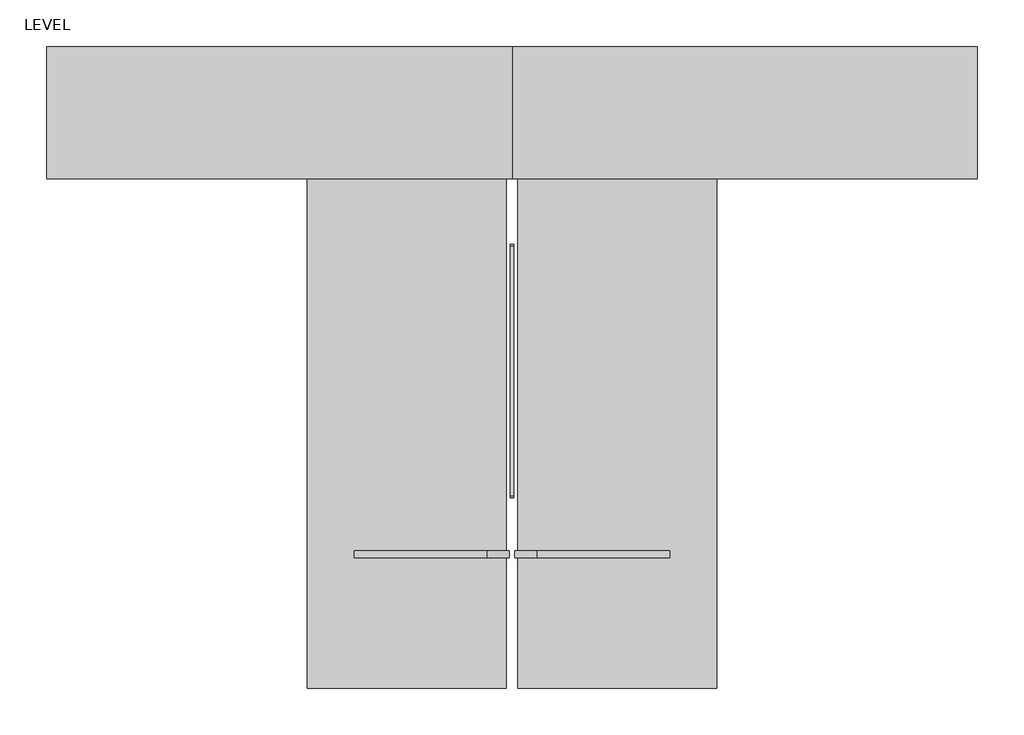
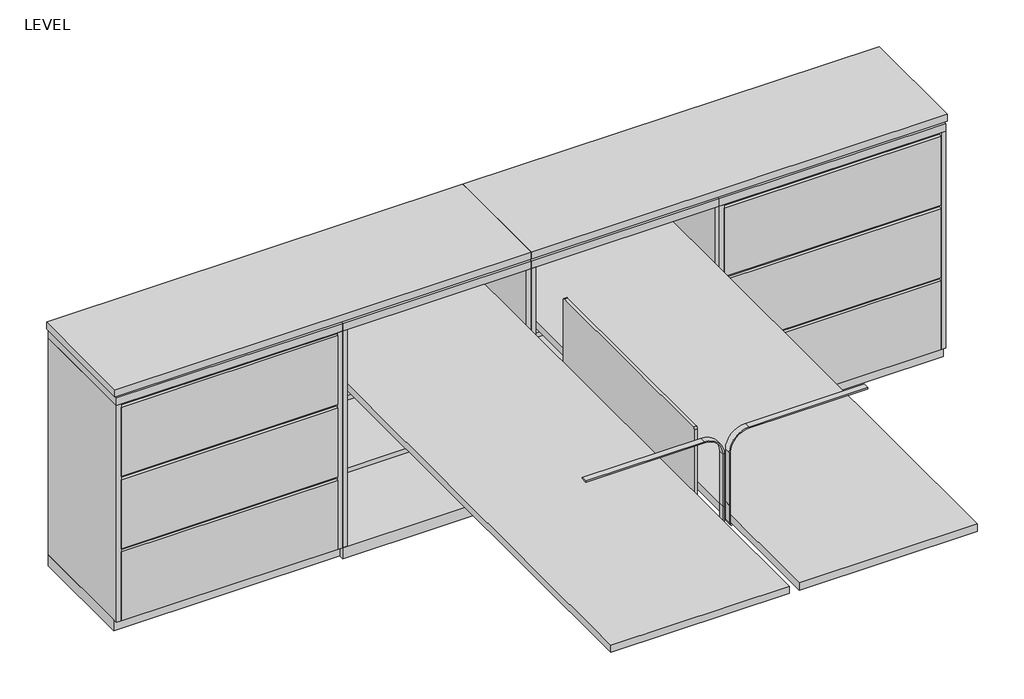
# One storey, incomplete: 9 furniture elements, 2 light fixtures.
"""IFC4 building model written with IfcOpenShell, lengths in millimetres."""

import ifcopenshell
import ifcopenshell.guid

model = None  # the IFC model being written
_history = None  # IfcOwnerHistory: only IFC2X3 demands one
_inside = {}  # id of a spatial element -> (the spatial element, [elements in it])
_under = {}  # id of a project, library or spatial element -> (it, [spatial elements below it])
_declared = {}  # id of a project -> (the project, [libraries it declares])
_typed = {}  # id of a type object -> (the type object, [elements of that type])
_made_of = {}  # id of a material, layer set ... -> (it, [elements and type objects made of it])


def new_model(schema):
    """Start an empty IFC model of exactly this schema.

    Asked for "IFC4X3", IfcOpenShell would pick the latest addendum, in which some entities
    have other attributes; the version numbers below select the first issue.
    IFC2X3 requires an IfcOwnerHistory on every rooted entity: one is made here for all.
    """
    global model, _history
    if schema == "IFC4X3":
        model = ifcopenshell.file(schema_version=(4, 3, 0, 0))
    else:
        model = ifcopenshell.file(schema=schema)
    _inside.clear()
    _under.clear()
    _declared.clear()
    _typed.clear()
    _made_of.clear()
    _history = None
    if model.schema == "IFC2X3":
        org = make("IfcOrganization", Name="unknown")
        user = make(
            "IfcPersonAndOrganization",
            ThePerson=make("IfcPerson", FamilyName="unknown"),
            TheOrganization=org,
        )
        app = make(
            "IfcApplication",
            ApplicationDeveloper=org,
            Version="unknown",
            ApplicationFullName="unknown",
            ApplicationIdentifier="unknown",
        )
        _history = make(
            "IfcOwnerHistory",
            OwningUser=user,
            OwningApplication=app,
            ChangeAction="ADDED",
            CreationDate=0,
        )
    return model


def make(cls, **values):
    """One entity of the class cls with the attributes given. An attribute that is None is left unset."""
    return model.create_entity(
        cls, **{name: value for name, value in values.items() if value is not None}
    )


def rooted(cls, **values):
    """An entity with a GlobalId (a new one), such as an element, a storey or a relation."""
    return make(cls, GlobalId=ifcopenshell.guid.new(), OwnerHistory=_history, **values)


def si_unit(unit_type, name, prefix=None):
    """IfcSIUnit, for example si_unit("LENGTHUNIT", "METRE", prefix="MILLI")."""
    return make("IfcSIUnit", UnitType=unit_type, Prefix=prefix, Name=name)


def assignment(units):
    """IfcUnitAssignment: the units of a project."""
    return None if units is None else make("IfcUnitAssignment", Units=units)


def point(xyz):
    """IfcCartesianPoint."""
    return None if xyz is None else make("IfcCartesianPoint", Coordinates=xyz)


def direction(xyz):
    """IfcDirection."""
    return None if xyz is None else make("IfcDirection", DirectionRatios=xyz)


def frame(location, z_axis=None, x_axis=None):
    """IfcAxis2Placement3D, a coordinate frame: its origin and axes. An axis left out is left unset."""
    return make(
        "IfcAxis2Placement3D",
        Location=point(location),
        Axis=direction(z_axis),
        RefDirection=direction(x_axis),
    )


def frame_2d(location, x_axis=None):
    """IfcAxis2Placement2D, a coordinate frame in the plane: its origin and x axis."""
    return make(
        "IfcAxis2Placement2D", Location=point(location), RefDirection=direction(x_axis)
    )


def origin():
    """The frame at (0, 0, 0) with its axes left unset."""
    return frame((0.0, 0.0, 0.0))


def origin_with_axes():
    """The frame at (0, 0, 0) with the z axis (0, 0, 1) and the x axis (1, 0, 0) written out."""
    return frame((0.0, 0.0, 0.0), z_axis=(0.0, 0.0, 1.0), x_axis=(1.0, 0.0, 0.0))


def place(relative_to, where):
    """IfcLocalPlacement: puts the frame where relative to a parent placement (None: the world)."""
    return make(
        "IfcLocalPlacement", PlacementRelTo=relative_to, RelativePlacement=where
    )


def context(
    kind, dimensions, precision=None, world=None, true_north=None, identifier=None
):
    """IfcGeometricRepresentationContext, for example the 3D "Model" context."""
    return make(
        "IfcGeometricRepresentationContext",
        ContextIdentifier=identifier,
        ContextType=kind,
        CoordinateSpaceDimension=dimensions,
        Precision=precision,
        WorldCoordinateSystem=world,
        TrueNorth=true_north,
    )


def project(units=None, contexts=None):
    """IfcProject with its units and contexts."""
    return rooted(
        "IfcProject",
        Name="project",
        RepresentationContexts=contexts,
        UnitsInContext=assignment(units),
    )


def spatial(cls, under=None, at=None, **own):
    """A site, building, storey or space (cls), placed at a placement, below another one or the project."""
    s = rooted(cls, ObjectPlacement=at, **own)
    if under is not None:
        _under.setdefault(under.id(), (under, []))[1].append(s)
    return s


def polyline(points):
    """IfcPolyline through the points."""
    return make("IfcPolyline", Points=[point(p) for p in points])


def circle_curve(where, radius):
    """IfcCircle in the frame where."""
    return make("IfcCircle", Position=where, Radius=radius)


def trimmed(basis, trim1, trim2, sense, master):
    """IfcTrimmedCurve: the piece of a basis curve between two trims."""
    return make(
        "IfcTrimmedCurve",
        BasisCurve=basis,
        Trim1=trim1,
        Trim2=trim2,
        SenseAgreement=sense,
        MasterRepresentation=master,
    )


def segment(curve, same_sense, transition):
    """IfcCompositeCurveSegment."""
    return make(
        "IfcCompositeCurveSegment",
        Transition=transition,
        SameSense=same_sense,
        ParentCurve=curve,
    )


def composite_curve(segments, self_intersect=None):
    """IfcCompositeCurve: segments joined end to end."""
    return make("IfcCompositeCurve", Segments=segments, SelfIntersect=self_intersect)


def outline(outer, holes=None, kind="AREA"):
    """IfcArbitraryClosedProfileDef: a profile drawn as a closed curve; with holes, ...WithVoids."""
    if holes is None:
        return make("IfcArbitraryClosedProfileDef", ProfileType=kind, OuterCurve=outer)
    return make(
        "IfcArbitraryProfileDefWithVoids",
        ProfileType=kind,
        OuterCurve=outer,
        InnerCurves=holes,
    )


def extrude(swept, where, along, depth):
    """IfcExtrudedAreaSolid: the profile swept, set in the frame where, extruded along a direction by depth."""
    return make(
        "IfcExtrudedAreaSolid",
        SweptArea=swept,
        Position=where,
        ExtrudedDirection=direction(along),
        Depth=depth,
    )


def shape(context_of_items, identifier, shape_type, items):
    """IfcShapeRepresentation: the items that make up one representation, for example the "Body"."""
    return make(
        "IfcShapeRepresentation",
        ContextOfItems=context_of_items,
        RepresentationIdentifier=identifier,
        RepresentationType=shape_type,
        Items=items,
    )


def source(mapping_origin, context_of_items, identifier, shape_type, items):
    """IfcRepresentationMap: a shape defined once, which mapped items show again and again."""
    return make(
        "IfcRepresentationMap",
        MappingOrigin=mapping_origin,
        MappedRepresentation=shape(context_of_items, identifier, shape_type, items),
    )


def transform(
    local_origin,
    x_axis=None,
    y_axis=None,
    z_axis=None,
    scale=None,
    scale2=None,
    scale3=None,
    uniform=True,
):
    """IfcCartesianTransformationOperator3D, or its non-uniform kind. x_axis, y_axis, z_axis: its Axis1, 2, 3."""
    if uniform:
        return make(
            "IfcCartesianTransformationOperator3D",
            Axis1=direction(x_axis),
            Axis2=direction(y_axis),
            LocalOrigin=point(local_origin),
            Scale=scale,
            Axis3=direction(z_axis),
        )
    return make(
        "IfcCartesianTransformationOperator3DnonUniform",
        Axis1=direction(x_axis),
        Axis2=direction(y_axis),
        LocalOrigin=point(local_origin),
        Scale=scale,
        Axis3=direction(z_axis),
        Scale2=scale2,
        Scale3=scale3,
    )


def mapped(mapping_source, mapping_target):
    """IfcMappedItem: shows the shape of a source again, moved by a transform."""
    return make(
        "IfcMappedItem", MappingSource=mapping_source, MappingTarget=mapping_target
    )


def made_of(thing, what):
    """Note that an element or type object is made of a material, layer set ...; save() writes the relation."""
    if what is not None:
        _made_of.setdefault(what.id(), (what, []))[1].append(thing)
    return thing


def element(
    cls,
    number,
    at=None,
    inside=None,
    cuts=None,
    type_object=None,
    material=None,
    context=None,
    identifier="Body",
    shape_type=None,
    held_by="IfcProductDefinitionShape",
    body=None,
    shapes=None,
    **own,
):
    """One element of the class cls, such as IfcWall. Its Tag is "e" and its number.

    at: its placement. inside: the storey or other place that contains it. cuts: it is an
    opening in that element (IfcRelVoidsElement). A single representation is given by context,
    identifier, shape_type and body (its items); several are given by shapes. held_by: the class
    of the entity that holds the representations. save() writes the other relations.
    """
    e = rooted(cls, Tag="e%d" % number, ObjectPlacement=at, **own)
    if body is not None:
        shapes = [shape(context, identifier, shape_type, body)]
    if shapes is not None:
        e.Representation = make(held_by, Representations=shapes)
    if inside is not None:
        _inside.setdefault(inside.id(), (inside, []))[1].append(e)
    if cuts is not None:
        rooted(
            "IfcRelVoidsElement", RelatingBuildingElement=cuts, RelatedOpeningElement=e
        )
    if type_object is not None:
        _typed.setdefault(type_object.id(), (type_object, []))[1].append(e)
    return made_of(e, material)


def aggregate(whole, parts):
    """IfcRelAggregates: a whole, such as a stair, and the parts it consists of."""
    return rooted("IfcRelAggregates", RelatingObject=whole, RelatedObjects=parts)


def save(model, path):
    """Write the relations noted so far, then the file.

    IfcRelAggregates (storeys below a building ...), IfcRelContainedInSpatialStructure (elements
    in a storey), IfcRelDefinesByType, IfcRelAssociatesMaterial and IfcRelDeclares: one each for
    every whole, place, type object, material and project.
    """
    for whole, parts in _under.values():
        aggregate(whole, parts)
    for where, things in _inside.values():
        rooted(
            "IfcRelContainedInSpatialStructure",
            RelatedElements=things,
            RelatingStructure=where,
        )
    for kind, things in _typed.values():
        rooted("IfcRelDefinesByType", RelatedObjects=things, RelatingType=kind)
    for what, things in _made_of.values():
        rooted("IfcRelAssociatesMaterial", RelatedObjects=things, RelatingMaterial=what)
    for by, libraries in _declared.values():
        rooted("IfcRelDeclares", RelatingContext=by, RelatedDefinitions=libraries)
    model.write(path)


def furniture_9bfe657d(model_context):
    return source(origin(), model_context, "Body", "SweptSolid", [
        extrude(outline(polyline([(838.2, 238.125), (838.2, -238.125), (-838.2, -238.125), (-838.2, 238.125), (838.2, 238.125)])), frame((0.0, 0.0, 1011.2375), z_axis=(0.0, 0.0, 1.0), x_axis=(1.0, 0.0, 0.0)), (0.0, 0.0, 1.0), 30.1625),
    ])


def furniture_7700fe12(model_context):
    return source(origin(), model_context, "Body", "SweptSolid", [
        extrude(outline(polyline([(838.2, -238.125), (-838.2, -238.125), (-838.2, 238.125), (838.2, 238.125), (838.2, -238.125)])), frame((0.0, 0.0, 1011.2375), z_axis=(0.0, 0.0, 1.0), x_axis=(1.0, 0.0, 0.0)), (0.0, 0.0, 1.0), 30.1625),
    ])


def furniture_46f5773e(model_context):
    return source(origin(), model_context, "Body", "SweptSolid", [
        extrude(outline(polyline([(360.3625, -19.05), (360.3625, -457.2), (-360.3625, -457.2), (-360.3625, -19.05), (360.3625, -19.05)])), frame((0.0, 0.0, 654.05), z_axis=(0.0, 0.0, 1.0), x_axis=(1.0, 0.0, 0.0)), (0.0, 0.0, 1.0), 19.05),
        extrude(outline(polyline([(360.3625, -19.05), (360.3625, -457.2), (-360.3625, -457.2), (-360.3625, -19.05), (360.3625, -19.05)])), frame((0.0, 0.0, 346.075), z_axis=(0.0, 0.0, 1.0), x_axis=(1.0, 0.0, 0.0)), (0.0, 0.0, 1.0), 19.05),
        extrude(outline(polyline([(379.4125, 0.0), (379.4125, -476.25), (-379.4125, -476.25), (-379.4125, 0.0), (379.4125, 0.0)])), origin_with_axes(), (0.0, 0.0, 1.0), 47.625),
        extrude(outline(polyline([(379.4125, 0.0), (379.4125, -476.25), (-379.4125, -476.25), (-379.4125, 0.0), (379.4125, 0.0)])), frame((0.0, 0.0, 971.55), z_axis=(0.0, 0.0, 1.0), x_axis=(1.0, 0.0, 0.0)), (0.0, 0.0, 1.0), 31.75),
        extrude(outline(polyline([(379.4125, 0.0), (379.4125, -476.25), (360.3625, -476.25), (360.3625, -19.05), (-360.3625, -19.05), (-360.3625, -476.25), (-379.4125, -476.25), (-379.4125, 0.0), (379.4125, 0.0)])), frame((0.0, 0.0, 47.625), z_axis=(0.0, 0.0, 1.0), x_axis=(1.0, 0.0, 0.0)), (0.0, 0.0, 1.0), 923.925),
    ])


def furniture_f4e6c6b2(model_context):
    return source(origin(), model_context, "Body", "SweptSolid", [
        extrude(outline(polyline([(-457.2, 663.575), (-476.25, 663.575), (-476.25, 957.2625), (-463.55, 957.2625), (-463.55, 971.55), (-457.2, 971.55), (-457.2, 663.575)])), frame((-436.5625, 0.0, 0.0), z_axis=(1.0, 0.0, 0.0), x_axis=(0.0, 1.0, 0.0)), (0.0, 0.0, 1.0), 873.125),
        extrude(outline(polyline([(-457.2, 355.6), (-476.25, 355.6), (-476.25, 649.2875), (-463.55, 649.2875), (-463.55, 663.575), (-457.2, 663.575), (-457.2, 355.6)])), frame((-436.5625, 0.0, 0.0), z_axis=(1.0, 0.0, 0.0), x_axis=(0.0, 1.0, 0.0)), (0.0, 0.0, 1.0), 873.125),
        extrude(outline(polyline([(-457.2, 47.625), (-476.25, 47.625), (-476.25, 341.3125), (-463.55, 341.3125), (-463.55, 355.6), (-457.2, 355.6), (-457.2, 47.625)])), frame((-436.5625, 0.0, 0.0), z_axis=(1.0, 0.0, 0.0), x_axis=(0.0, 1.0, 0.0)), (0.0, 0.0, 1.0), 873.125),
        extrude(outline(polyline([(455.6125, 0.0), (455.6125, -457.2), (-455.6125, -457.2), (-455.6125, 0.0), (455.6125, 0.0)])), origin_with_axes(), (0.0, 0.0, 1.0), 47.625),
        extrude(outline(polyline([(455.6125, 0.0), (455.6125, -476.25), (-455.6125, -476.25), (-455.6125, 0.0), (455.6125, 0.0)])), frame((0.0, 0.0, 971.55), z_axis=(0.0, 0.0, 1.0), x_axis=(1.0, 0.0, 0.0)), (0.0, 0.0, 1.0), 31.75),
        extrude(outline(polyline([(455.6125, 0.0), (455.6125, -476.25), (436.5625, -476.25), (436.5625, -19.05), (-436.5625, -19.05), (-436.5625, -476.25), (-455.6125, -476.25), (-455.6125, 0.0), (455.6125, 0.0)])), frame((0.0, 0.0, 47.625), z_axis=(0.0, 0.0, 1.0), x_axis=(1.0, 0.0, 0.0)), (0.0, 0.0, 1.0), 923.925),
    ])


def furniture_59804fc4(model_context):
    return source(origin(), model_context, "Body", "SweptSolid", [
        extrude(outline(composite_curve([segment(polyline([(990.6, 449.2625), (990.6, -449.2625)]), True, "CONTINUOUS"), segment(trimmed(circle_curve(frame_2d((982.6625, -449.2625)), 7.9375), [point((990.6, -449.2625))], [point((982.6625, -457.2))], False, "CARTESIAN"), True, "CONTINUOUS"), segment(polyline([(982.6625, -457.2), (287.3375, -457.2)]), True, "CONTINUOUS"), segment(trimmed(circle_curve(frame_2d((287.3375, -449.2625)), 7.9375), [point((287.3375, -457.2))], [point((279.4, -449.2625))], False, "CARTESIAN"), True, "CONTINUOUS"), segment(polyline([(279.4, -449.2625), (279.4, 449.2625)]), True, "CONTINUOUS"), segment(trimmed(circle_curve(frame_2d((287.3375, 449.2625)), 7.9375), [point((279.4, 449.2625))], [point((287.3375, 457.2))], False, "CARTESIAN"), True, "CONTINUOUS"), segment(polyline([(287.3375, 457.2), (982.6625, 457.2)]), True, "CONTINUOUS"), segment(trimmed(circle_curve(frame_2d((982.6625, 449.2625)), 7.9375), [point((982.6625, 457.2))], [point((990.6, 449.2625))], False, "CARTESIAN"), True, "CONTINUOUS")], self_intersect=False)), frame((0.0, -6.35, 0.0), z_axis=(0.0, 1.0, 0.0), x_axis=(0.0, 0.0, 1.0)), (0.0, 0.0, 1.0), 12.7),
    ])


def furniture_ea66191a(model_context):
    return source(origin(), model_context, "Body", "SweptSolid", [
        extrude(outline(polyline([(1143.0, 358.775), (1143.0, -358.775), (-1143.0, -358.775), (-1143.0, 358.775), (1143.0, 358.775)])), frame((0.0, 0.0, 706.4375), z_axis=(0.0, 0.0, 1.0), x_axis=(1.0, 0.0, 0.0)), (0.0, 0.0, 1.0), 30.1625),
    ])


def worksurface_mount_c278ec45(model_context):
    return source(origin(), model_context, "Body", "SweptSolid", [
        extrude(outline(composite_curve([segment(polyline([(703.2625, -529.3713699), (698.5, -529.3713699), (698.5, 16.7286301)]), True, "CONTINUOUS"), segment(trimmed(circle_curve(frame_2d((711.2, 16.7286301)), 12.7), [point((698.5, 16.7286301))], [point((711.2, 29.4286301))], False, "CARTESIAN"), True, "CONTINUOUS"), segment(polyline([(711.2, 29.4286301), (787.4, 29.4286301), (787.4, 24.6661301), (711.2, 24.6661301)]), True, "CONTINUOUS"), segment(trimmed(circle_curve(frame_2d((711.2, 16.7286301)), 7.9375), [point((711.2, 24.6661301))], [point((703.2625, 16.7286301))], True, "CARTESIAN"), True, "CONTINUOUS"), segment(polyline([(703.2625, 16.7286301), (703.2625, -529.3713699)]), True, "CONTINUOUS")], self_intersect=False)), frame((0.0, 211.5532085, 0.0), z_axis=(0.0, 1.0, 0.0), x_axis=(0.0, 0.0, 1.0)), (0.0, 0.0, 1.0), 25.4),
        extrude(outline(composite_curve([segment(polyline([(1092.2, -529.3713699), (1087.4375, -529.3713699), (1087.4375, -51.5338699)]), True, "CONTINUOUS"), segment(trimmed(circle_curve(frame_2d((1011.2375, -51.5338699)), 76.2), [point((1087.4375, -51.5338699))], [point((1011.2375, 24.6661301))], True, "CARTESIAN"), True, "CONTINUOUS"), segment(polyline([(1011.2375, 24.6661301), (787.4, 24.6661301), (787.4, 29.4286301), (1011.2375, 29.4286301)]), True, "CONTINUOUS"), segment(trimmed(circle_curve(frame_2d((1011.2375, -51.5338699)), 80.9625), [point((1011.2375, 29.4286301))], [point((1092.2, -51.5338699))], False, "CARTESIAN"), True, "CONTINUOUS"), segment(polyline([(1092.2, -51.5338699), (1092.2, -529.3713699)]), True, "CONTINUOUS")], self_intersect=False)), frame((0.0, 211.5532085, 0.0), z_axis=(0.0, 1.0, 0.0), x_axis=(0.0, 0.0, 1.0)), (0.0, 0.0, 1.0), 25.4),
    ])


def worksurface_mount_81171a16(model_context):
    return source(origin(), model_context, "Body", "SweptSolid", [
        extrude(outline(composite_curve([segment(polyline([(698.5, -529.3713699), (698.5, 16.7286301)]), True, "CONTINUOUS"), segment(trimmed(circle_curve(frame_2d((711.2, 16.7286301)), 12.7), [point((698.5, 16.7286301))], [point((711.2, 29.4286301))], False, "CARTESIAN"), True, "CONTINUOUS"), segment(polyline([(711.2, 29.4286301), (787.4, 29.4286301), (787.4, 24.6661301), (711.2, 24.6661301)]), True, "CONTINUOUS"), segment(trimmed(circle_curve(frame_2d((711.2, 16.7286301)), 7.9375), [point((711.2, 24.6661301))], [point((703.2625, 16.7286301))], True, "CARTESIAN"), True, "CONTINUOUS"), segment(polyline([(703.2625, 16.7286301), (703.2625, -529.3713699), (698.5, -529.3713699)]), True, "CONTINUOUS")], self_intersect=False)), frame((0.0, -236.9532085, 0.0), z_axis=(0.0, 1.0, 0.0), x_axis=(0.0, 0.0, 1.0)), (0.0, 0.0, 1.0), 25.4),
        extrude(outline(composite_curve([segment(polyline([(1087.4375, -529.3713699), (1087.4375, -51.5338699)]), True, "CONTINUOUS"), segment(trimmed(circle_curve(frame_2d((1011.2375, -51.5338699)), 76.2), [point((1087.4375, -51.5338699))], [point((1011.2375, 24.6661301))], True, "CARTESIAN"), True, "CONTINUOUS"), segment(polyline([(1011.2375, 24.6661301), (787.4, 24.6661301), (787.4, 29.4286301), (1011.2375, 29.4286301)]), True, "CONTINUOUS"), segment(trimmed(circle_curve(frame_2d((1011.2375, -51.5338699)), 80.9625), [point((1011.2375, 29.4286301))], [point((1092.2, -51.5338699))], False, "CARTESIAN"), True, "CONTINUOUS"), segment(polyline([(1092.2, -51.5338699), (1092.2, -529.3713699), (1087.4375, -529.3713699)]), True, "CONTINUOUS")], self_intersect=False)), frame((0.0, -236.9532085, 0.0), z_axis=(0.0, 1.0, 0.0), x_axis=(0.0, 0.0, 1.0)), (0.0, 0.0, 1.0), 25.4),
    ])


model = new_model("IFC4")

# Units and contexts
model_context = context("Model", 3, world=origin())
ifc_project = project(units=[si_unit("LENGTHUNIT", "METRE", prefix="MILLI")], contexts=[model_context])

# Site, building, storey
site = spatial("IfcSite", under=ifc_project)
building = spatial("IfcBuilding", under=site)
storey = spatial("IfcBuildingStorey", under=building, Name="LEVEL", Elevation=0.0)

# Furniture
placement = place(None, origin())
furniture_shape = furniture_9bfe657d(model_context)
element("IfcFurniture", 1, ObjectType="Haworth_XSeries-Common_Top : 18 3/4\" x 66\"", at=placement, inside=storey, context=model_context, shape_type="MappedRepresentation", body=[
    mapped(furniture_shape, transform((11606.3896263, -36841.9669945, 0.0), x_axis=(1.0, 0.0, 0.0), y_axis=(0.0, 1.0, 0.0), z_axis=(0.0, 0.0, 1.0))),
])
furniture_2_shape = furniture_7700fe12(model_context)
element("IfcFurniture", 2, ObjectType="Haworth_XSeries-Common_Top : 18 3/4\" x 66\"", at=placement, inside=storey, context=model_context, shape_type="MappedRepresentation", body=[
    mapped(furniture_2_shape, transform((9929.9896263, -36841.9669945, 0.0), x_axis=(-1.0, 0.0, 0.0), y_axis=(0.0, -1.0, 0.0), z_axis=(0.0, 0.0, 1.0))),
])
furniture_3_shape = furniture_46f5773e(model_context)
element("IfcFurniture", 3, ObjectType="Haworth_XSeries-Storage_Cabinet : 3 High - 30\" Width - No Doors", at=placement, inside=storey, context=model_context, shape_type="MappedRepresentation", body=[
    mapped(furniture_3_shape, transform((10388.7771263, -36603.8419945, 0.0), x_axis=(1.0, 0.0, 0.0), y_axis=(0.0, 1.0, 0.0), z_axis=(0.0, 0.0, 1.0))),
])
element("IfcFurniture", 4, ObjectType="Haworth_XSeries-Storage_Cabinet : 3 High - 30\" Width - No Doors", at=placement, inside=storey, context=model_context, shape_type="MappedRepresentation", body=[
    mapped(furniture_3_shape, transform((11147.6021263, -36603.8419945, 0.0), x_axis=(1.0, 0.0, 0.0), y_axis=(0.0, 1.0, 0.0), z_axis=(0.0, 0.0, 1.0))),
])
furniture_4_shape = furniture_f4e6c6b2(model_context)
element("IfcFurniture", 5, ObjectType="Haworth_XSeries-Lateral_Files : 3 High - 36\" Width", at=placement, inside=storey, context=model_context, shape_type="MappedRepresentation", body=[
    mapped(furniture_4_shape, transform((11982.6271263, -36603.8419945, 0.0), x_axis=(1.0, 0.0, 0.0), y_axis=(0.0, 1.0, 0.0), z_axis=(0.0, 0.0, 1.0))),
])
element("IfcFurniture", 6, ObjectType="Haworth_XSeries-Lateral_Files : 3 High - 36\" Width", at=placement, inside=storey, context=model_context, shape_type="MappedRepresentation", body=[
    mapped(furniture_4_shape, transform((9553.7521263, -36603.8419945, 0.0), x_axis=(1.0, 0.0, 0.0), y_axis=(0.0, 1.0, 0.0), z_axis=(0.0, 0.0, 1.0))),
])
furniture_5_shape = furniture_59804fc4(model_context)
element("IfcFurniture", 7, ObjectType="Haworth_Patterns-Privacy_Screen : 36\" Width", at=placement, inside=storey, context=model_context, shape_type="MappedRepresentation", body=[
    mapped(furniture_5_shape, transform((10768.1896263, -37772.2419946, 0.0), x_axis=(0.0, -1.0, 0.0), y_axis=(1.0, 0.0, 0.0), z_axis=(0.0, 0.0, 1.0))),
])
furniture_6_shape = furniture_ea66191a(model_context)
element("IfcFurniture", 8, ObjectType="Haworth_Worksurface-Rectangular : 90\" x 28 1/4\"", at=placement, inside=storey, context=model_context, shape_type="MappedRepresentation", body=[
    mapped(furniture_6_shape, transform((11147.6021263, -37772.2419946, 0.0), x_axis=(0.0, 1.0, 0.0), y_axis=(-1.0, 0.0, 0.0), z_axis=(0.0, 0.0, 1.0))),
])
element("IfcFurniture", 9, ObjectType="Haworth_Worksurface-Rectangular : 90\" x 28 1/4\"", at=placement, inside=storey, context=model_context, shape_type="MappedRepresentation", body=[
    mapped(furniture_6_shape, transform((10388.7771263, -37772.2419946, 0.0), x_axis=(0.0, 1.0, 0.0), y_axis=(-1.0, 0.0, 0.0), z_axis=(0.0, 0.0, 1.0))),
])

# Light fixtures
worksurface_mount_shape = worksurface_mount_c278ec45(model_context)
element("IfcLightFixture", 10, ObjectType="Haworth_Lighting-LIM : Worksurface Mount", at=placement, inside=storey, context=model_context, shape_type="MappedRepresentation", body=[
    mapped(worksurface_mount_shape, transform((10807.1432564, -38208.3524133, 0.0), x_axis=(-1.0, 0.0, 0.0), y_axis=(0.0, -1.0, 0.0), z_axis=(0.0, 0.0, 1.0))),
])
worksurface_mount_2_shape = worksurface_mount_81171a16(model_context)
element("IfcLightFixture", 11, ObjectType="Haworth_Lighting-LIM : Worksurface Mount", at=placement, inside=storey, context=model_context, shape_type="MappedRepresentation", body=[
    mapped(worksurface_mount_2_shape, transform((10729.2359962, -38208.3524133, 0.0), x_axis=(1.0, 0.0, 0.0), y_axis=(0.0, 1.0, 0.0), z_axis=(0.0, 0.0, 1.0))),
])

save(model, "model.ifc")
